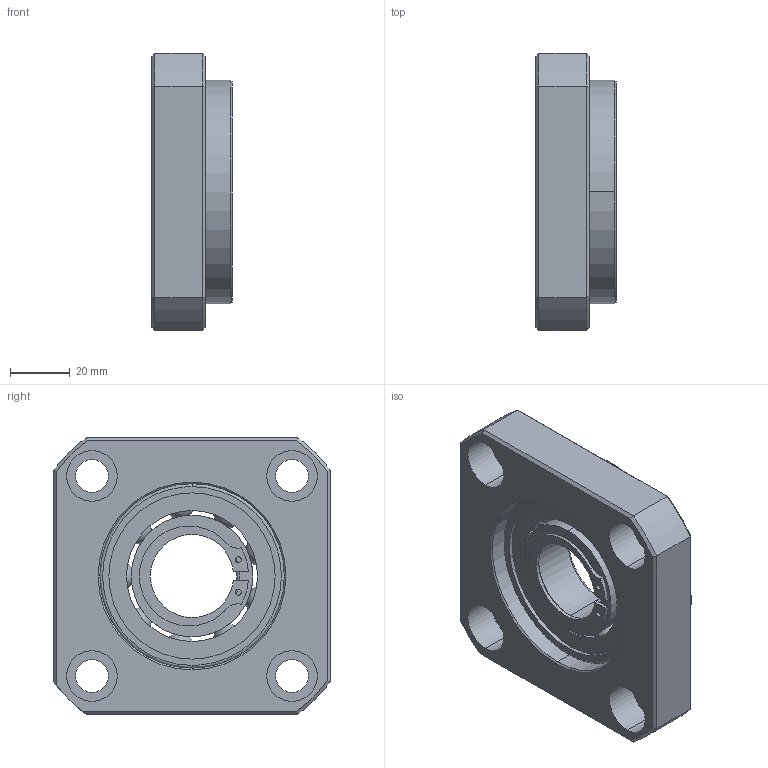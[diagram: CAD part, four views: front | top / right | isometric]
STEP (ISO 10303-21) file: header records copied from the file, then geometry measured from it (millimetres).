
FILE_DESCRIPTION (( 'STEP AP214' ), '1' );
FILE_NAME ('7.4028 FF30.STEP', '2026-03-06T07:54:09', ( '' ), ( '' ), 'SwSTEP 2.0', 'SolidWorks 2025', '' );
FILE_SCHEMA (( 'AUTOMOTIVE_DESIGN' ));
Length unit declared in the file: millimetre
Products named in the file (1): 7.4028 FF30
Bounding box: 27 x 93 x 93 mm (x, y, z)
Volume: 119989.9 mm3; surface area: 45703.6 mm2
Topology: 3 solids, 3 shells, 296 faces, 928 edges, 597 vertices
Faces by surface type: sphere 89, plane 78, cylinder 60, bspline 56, cone 13
Entity records: 17245 total; most frequent: CARTESIAN_POINT 7651, ORIENTED_EDGE 1750, DIRECTION 1346, EDGE_CURVE 875, AXIS2_PLACEMENT_3D 582, VERTEX_POINT 580, EDGE_LOOP 343, CIRCLE 341
